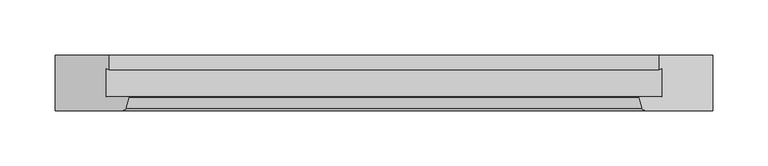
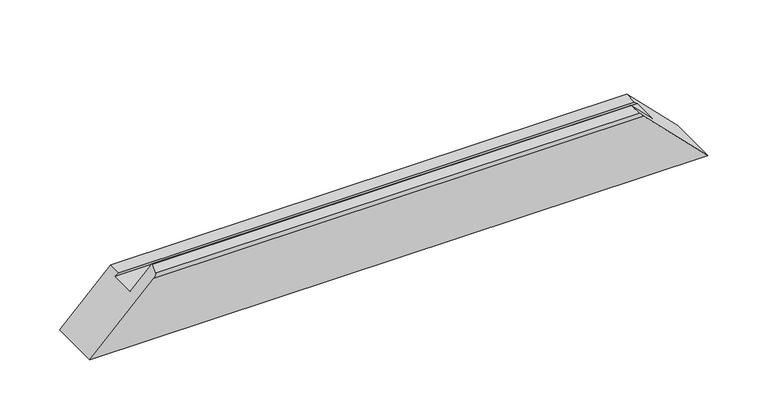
"""IFC4 building model written with IfcOpenShell, lengths in millimetres: proxy geometry, Weiku - Montante - Caixilho 02.2.01.005 : Weiku - Montante - Caixilho 02.2.01.005."""

import ifcopenshell
import ifcopenshell.guid

model = None  # the IFC model being written
_history = None  # IfcOwnerHistory: only IFC2X3 demands one
_inside = {}  # id of a spatial element -> (the spatial element, [elements in it])
_under = {}  # id of a project, library or spatial element -> (it, [spatial elements below it])
_declared = {}  # id of a project -> (the project, [libraries it declares])
_typed = {}  # id of a type object -> (the type object, [elements of that type])
_made_of = {}  # id of a material, layer set ... -> (it, [elements and type objects made of it])


def new_model(schema):
    """Start an empty IFC model of exactly this schema.

    Asked for "IFC4X3", IfcOpenShell would pick the latest addendum, in which some entities
    have other attributes; the version numbers below select the first issue.
    IFC2X3 requires an IfcOwnerHistory on every rooted entity: one is made here for all.
    """
    global model, _history
    if schema == "IFC4X3":
        model = ifcopenshell.file(schema_version=(4, 3, 0, 0))
    else:
        model = ifcopenshell.file(schema=schema)
    _inside.clear()
    _under.clear()
    _declared.clear()
    _typed.clear()
    _made_of.clear()
    _history = None
    if model.schema == "IFC2X3":
        org = make("IfcOrganization", Name="unknown")
        user = make(
            "IfcPersonAndOrganization",
            ThePerson=make("IfcPerson", FamilyName="unknown"),
            TheOrganization=org,
        )
        app = make(
            "IfcApplication",
            ApplicationDeveloper=org,
            Version="unknown",
            ApplicationFullName="unknown",
            ApplicationIdentifier="unknown",
        )
        _history = make(
            "IfcOwnerHistory",
            OwningUser=user,
            OwningApplication=app,
            ChangeAction="ADDED",
            CreationDate=0,
        )
    return model


def make(cls, **values):
    """One entity of the class cls with the attributes given. An attribute that is None is left unset."""
    return model.create_entity(
        cls, **{name: value for name, value in values.items() if value is not None}
    )


def rooted(cls, **values):
    """An entity with a GlobalId (a new one), such as an element, a storey or a relation."""
    return make(cls, GlobalId=ifcopenshell.guid.new(), OwnerHistory=_history, **values)


def si_unit(unit_type, name, prefix=None):
    """IfcSIUnit, for example si_unit("LENGTHUNIT", "METRE", prefix="MILLI")."""
    return make("IfcSIUnit", UnitType=unit_type, Prefix=prefix, Name=name)


def assignment(units):
    """IfcUnitAssignment: the units of a project."""
    return None if units is None else make("IfcUnitAssignment", Units=units)


def point(xyz):
    """IfcCartesianPoint."""
    return None if xyz is None else make("IfcCartesianPoint", Coordinates=xyz)


def direction(xyz):
    """IfcDirection."""
    return None if xyz is None else make("IfcDirection", DirectionRatios=xyz)


def frame(location, z_axis=None, x_axis=None):
    """IfcAxis2Placement3D, a coordinate frame: its origin and axes. An axis left out is left unset."""
    return make(
        "IfcAxis2Placement3D",
        Location=point(location),
        Axis=direction(z_axis),
        RefDirection=direction(x_axis),
    )


def origin():
    """The frame at (0, 0, 0) with its axes left unset."""
    return frame((0.0, 0.0, 0.0))


def place(relative_to, where):
    """IfcLocalPlacement: puts the frame where relative to a parent placement (None: the world)."""
    return make(
        "IfcLocalPlacement", PlacementRelTo=relative_to, RelativePlacement=where
    )


def context(
    kind, dimensions, precision=None, world=None, true_north=None, identifier=None
):
    """IfcGeometricRepresentationContext, for example the 3D "Model" context."""
    return make(
        "IfcGeometricRepresentationContext",
        ContextIdentifier=identifier,
        ContextType=kind,
        CoordinateSpaceDimension=dimensions,
        Precision=precision,
        WorldCoordinateSystem=world,
        TrueNorth=true_north,
    )


def project(units=None, contexts=None):
    """IfcProject with its units and contexts."""
    return rooted(
        "IfcProject",
        Name="project",
        RepresentationContexts=contexts,
        UnitsInContext=assignment(units),
    )


def spatial(cls, under=None, at=None, **own):
    """A site, building, storey or space (cls), placed at a placement, below another one or the project."""
    s = rooted(cls, ObjectPlacement=at, **own)
    if under is not None:
        _under.setdefault(under.id(), (under, []))[1].append(s)
    return s


def ellipse_curve(where, semi_axis1, semi_axis2):
    """IfcEllipse in the frame where."""
    return make(
        "IfcEllipse", Position=where, SemiAxis1=semi_axis1, SemiAxis2=semi_axis2
    )


def shape(context_of_items, identifier, shape_type, items):
    """IfcShapeRepresentation: the items that make up one representation, for example the "Body"."""
    return make(
        "IfcShapeRepresentation",
        ContextOfItems=context_of_items,
        RepresentationIdentifier=identifier,
        RepresentationType=shape_type,
        Items=items,
    )


def source(mapping_origin, context_of_items, identifier, shape_type, items):
    """IfcRepresentationMap: a shape defined once, which mapped items show again and again."""
    return make(
        "IfcRepresentationMap",
        MappingOrigin=mapping_origin,
        MappedRepresentation=shape(context_of_items, identifier, shape_type, items),
    )


def transform(
    local_origin,
    x_axis=None,
    y_axis=None,
    z_axis=None,
    scale=None,
    scale2=None,
    scale3=None,
    uniform=True,
):
    """IfcCartesianTransformationOperator3D, or its non-uniform kind. x_axis, y_axis, z_axis: its Axis1, 2, 3."""
    if uniform:
        return make(
            "IfcCartesianTransformationOperator3D",
            Axis1=direction(x_axis),
            Axis2=direction(y_axis),
            LocalOrigin=point(local_origin),
            Scale=scale,
            Axis3=direction(z_axis),
        )
    return make(
        "IfcCartesianTransformationOperator3DnonUniform",
        Axis1=direction(x_axis),
        Axis2=direction(y_axis),
        LocalOrigin=point(local_origin),
        Scale=scale,
        Axis3=direction(z_axis),
        Scale2=scale2,
        Scale3=scale3,
    )


def mapped(mapping_source, mapping_target):
    """IfcMappedItem: shows the shape of a source again, moved by a transform."""
    return make(
        "IfcMappedItem", MappingSource=mapping_source, MappingTarget=mapping_target
    )


def made_of(thing, what):
    """Note that an element or type object is made of a material, layer set ...; save() writes the relation."""
    if what is not None:
        _made_of.setdefault(what.id(), (what, []))[1].append(thing)
    return thing


def element(
    cls,
    number,
    at=None,
    inside=None,
    cuts=None,
    type_object=None,
    material=None,
    context=None,
    identifier="Body",
    shape_type=None,
    held_by="IfcProductDefinitionShape",
    body=None,
    shapes=None,
    **own,
):
    """One element of the class cls, such as IfcWall. Its Tag is "e" and its number.

    at: its placement. inside: the storey or other place that contains it. cuts: it is an
    opening in that element (IfcRelVoidsElement). A single representation is given by context,
    identifier, shape_type and body (its items); several are given by shapes. held_by: the class
    of the entity that holds the representations. save() writes the other relations.
    """
    e = rooted(cls, Tag="e%d" % number, ObjectPlacement=at, **own)
    if body is not None:
        shapes = [shape(context, identifier, shape_type, body)]
    if shapes is not None:
        e.Representation = make(held_by, Representations=shapes)
    if inside is not None:
        _inside.setdefault(inside.id(), (inside, []))[1].append(e)
    if cuts is not None:
        rooted(
            "IfcRelVoidsElement", RelatingBuildingElement=cuts, RelatedOpeningElement=e
        )
    if type_object is not None:
        _typed.setdefault(type_object.id(), (type_object, []))[1].append(e)
    return made_of(e, material)


def aggregate(whole, parts):
    """IfcRelAggregates: a whole, such as a stair, and the parts it consists of."""
    return rooted("IfcRelAggregates", RelatingObject=whole, RelatedObjects=parts)


def save(model, path):
    """Write the relations noted so far, then the file.

    IfcRelAggregates (storeys below a building ...), IfcRelContainedInSpatialStructure (elements
    in a storey), IfcRelDefinesByType, IfcRelAssociatesMaterial and IfcRelDeclares: one each for
    every whole, place, type object, material and project.
    """
    for whole, parts in _under.values():
        aggregate(whole, parts)
    for where, things in _inside.values():
        rooted(
            "IfcRelContainedInSpatialStructure",
            RelatedElements=things,
            RelatingStructure=where,
        )
    for kind, things in _typed.values():
        rooted("IfcRelDefinesByType", RelatedObjects=things, RelatingType=kind)
    for what, things in _made_of.values():
        rooted("IfcRelAssociatesMaterial", RelatedObjects=things, RelatingMaterial=what)
    for by, libraries in _declared.values():
        rooted("IfcRelDeclares", RelatingContext=by, RelatedDefinitions=libraries)
    model.write(path)


def plane_surface(at):
    """IfcPlane: the flat surface through the origin of the frame at, square to its z axis."""
    return make("IfcPlane", Position=at)


def cylinder_surface(at, radius):
    """IfcCylindricalSurface: all points at the distance radius from the z axis of the frame at."""
    return make("IfcCylindricalSurface", Position=at, Radius=radius)


def advanced_brep(points, edges, surfaces, faces):
    """IfcAdvancedBrep: a solid bounded by faces that lie on surfaces and meet in shared edges.

    An edge is (start, end): straight between two places in points (the first is 0);
    or (start, end, curve); or (start, end, curve, False) where it runs against its curve.
    A face is (place in surfaces, loops), or (place, loops, False) where it looks against
    its surface's normal. A loop lists edges by number (the first is 1), with a minus sign
    where the edge is run from its end to its start. The first loop is the outer one.
    """
    corners = [point(p) for p in points]
    vertices = [make("IfcVertexPoint", VertexGeometry=c) for c in corners]
    made = []
    for start, end, *more in edges:
        made.append(
            make(
                "IfcEdgeCurve",
                EdgeStart=vertices[start],
                EdgeEnd=vertices[end],
                EdgeGeometry=more[0] if more else make("IfcPolyline", Points=[corners[start], corners[end]]),
                SameSense=more[1] if len(more) > 1 else True,
            )
        )
    hull = []
    for where, loops, *sense in faces:
        bounds = []
        for j, loop in enumerate(loops):
            ring = [make("IfcOrientedEdge", EdgeElement=made[abs(k) - 1], Orientation=k > 0) for k in loop]
            bounds.append(
                make(
                    "IfcFaceOuterBound" if j == 0 else "IfcFaceBound",
                    Bound=make("IfcEdgeLoop", EdgeList=ring),
                    Orientation=True,
                )
            )
        hull.append(make("IfcAdvancedFace", Bounds=bounds, FaceSurface=surfaces[where], SameSense=sense[0] if sense else True))
    return make("IfcAdvancedBrep", Outer=make("IfcClosedShell", CfsFaces=hull))


def generic_models_2ecda529(model_context):
    return source(origin(), model_context, "Body", "AdvancedBrep", [
        advanced_brep(
        [(-251.5, 12.5, 46.0), (-231.3909676, 12.5, 66.1090324), (231.3909676, 12.5, 66.1090324), (251.5, 12.5, 46.0), (-251.5, 37.8314286, 46.0), (251.5, 37.8314286, 46.0), (-248.5, 37.027581, 49.0), (248.5, 37.027581, 49.0), (-248.5, 50.0, 49.0), (248.5, 50.0, 49.0), (297.5, 50.0, 0.0), (-297.5, 50.0, 0.0), (297.5, 0.0, 0.0), (-297.5, 0.0, 0.0), (235.9997332, 0.0, 61.5002668), (-235.9997332, 0.0, 61.5002668), (-230.618227, 11.4929448, 66.881773), (-233.1019557, 2.2235429, 64.3980443), (233.1019557, 2.2235429, 64.3980443), (230.618227, 11.4929448, 66.881773)],
        [
            (0, 1),
            (1, 2),
            (2, 3),
            (3, 0),
            (4, 0),
            (3, 5),
            (5, 4),
            (6, 4),
            (5, 7),
            (7, 6),
            (8, 6),
            (7, 9),
            (9, 8),
            (10, 11),
            (11, 8),
            (9, 10),
            (10, 12),
            (12, 13),
            (13, 11),
            (12, 14),
            (14, 15),
            (15, 13),
            (16, 17),
            (17, 18),
            (18, 19),
            (19, 16),
            (15, 17, ellipse_curve(frame((-235.9997332, 3.0, 61.5002668), z_axis=(-0.707106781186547, 0.0, 0.707106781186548), x_axis=(-0.7071067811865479, 0.0, -0.707106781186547)), 4.2426407, 3.0)),
            (16, 1, ellipse_curve(frame((-231.3909676, 11.7, 66.1090324), z_axis=(-0.707106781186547, 0.0, 0.707106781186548), x_axis=(-0.7071067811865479, 0.0, -0.707106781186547)), 1.1313708, 0.8)),
            (2, 19, ellipse_curve(frame((231.3909676, 11.7, 66.1090324), z_axis=(0.707106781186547, 0.0, 0.7071067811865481), x_axis=(-0.7071067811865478, 0.0, 0.707106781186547)), 1.1313708, 0.8)),
            (18, 14, ellipse_curve(frame((235.9997332, 3.0, 61.5002668), z_axis=(0.707106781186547, 0.0, 0.7071067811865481), x_axis=(-0.7071067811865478, 0.0, 0.707106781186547)), 4.2426407, 3.0)),
        ],
        [
            plane_surface(frame((-297.5, 12.5, 66.1090324), z_axis=(0.0, 1.0, 0.0), x_axis=(1.0, 0.0, 0.0))),
            plane_surface(frame((-297.5, 12.5, 46.0), z_axis=(0.0, 0.0, 1.0), x_axis=(1.0, 0.0, 0.0))),
            plane_surface(frame((-297.5, 37.8314286, 46.0), z_axis=(0.0, -0.9659258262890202, -0.2588190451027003), x_axis=(1.0, 0.0, 0.0))),
            plane_surface(frame((-297.5, 37.027581, 49.0), z_axis=(0.0, 0.0, 1.0), x_axis=(1.0, 0.0, 0.0))),
            plane_surface(frame((-297.5, 50.0, 49.0), z_axis=(0.0, 1.0, 0.0), x_axis=(1.0, 0.0, 0.0))),
            plane_surface(frame((-297.5, 50.0, 0.0), z_axis=(0.0, 0.0, -1.0), x_axis=(1.0, 0.0, 0.0))),
            plane_surface(frame((-297.5, 0.0, 0.0), z_axis=(0.0, -1.0, 0.0), x_axis=(1.0, 0.0, 0.0))),
            plane_surface(frame((-297.5, 2.2235429, 64.3980443), z_axis=(0.0, -0.2588190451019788, 0.9659258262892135), x_axis=(1.0, 0.0, 0.0))),
            plane_surface(frame((-367.5, -15.0, -70.0), z_axis=(-0.707106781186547, 0.0, 0.707106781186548), x_axis=(0.0, 1.0, 0.0))),
            plane_surface(frame((227.5, -15.0, 70.0), z_axis=(0.707106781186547, 0.0, 0.7071067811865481), x_axis=(0.0, 1.0, 0.0))),
            cylinder_surface(frame((-297.5, 11.7, 66.1090324), z_axis=(-1.0, 0.0, 0.0), x_axis=(0.0, 1.0, 0.0)), 0.8),
            cylinder_surface(frame((-297.5, 3.0, 61.5002668), z_axis=(-1.0, 0.0, 0.0), x_axis=(0.0, 1.0, 0.0)), 3.0),
        ],
        [
            (0, [[1, 2, 3, 4]]),
            (1, [[5, -4, 6, 7]]),
            (2, [[8, -7, 9, 10]]),
            (3, [[11, -10, 12, 13]]),
            (4, [[14, 15, -13, 16]]),
            (5, [[-14, 17, 18, 19]]),
            (6, [[-18, 20, 21, 22]]),
            (7, [[23, 24, 25, 26]]),
            (8, [[-1, -5, -8, -11, -15, -19, -22, 27, -23, 28]]),
            (9, [[-3, 29, -25, 30, -20, -17, -16, -12, -9, -6]]),
            (10, [[-28, -26, -29, -2]]),
            (11, [[-27, -21, -30, -24]]),
        ],
    ),
    ])


if __name__ == "__main__":
    model = new_model("IFC4")
    model_context = context("Model", 3, world=origin())
    ifc_project = project(units=[si_unit("LENGTHUNIT", "METRE", prefix="MILLI")], contexts=[model_context])
    site = spatial("IfcSite", under=ifc_project)
    building = spatial("IfcBuilding", under=site)
    placement = place(None, origin())
    generic_models_shape = generic_models_2ecda529(model_context)
    element("IfcBuildingElementProxy", 1, Name="Weiku - Montante - Caixilho 02.2.01.005 : Weiku - Montante - Caixilho 02.2.01.005", ObjectType="Weiku - Montante - Caixilho 02.2.01.005 : Weiku - Montante - Caixilho 02.2.01.005", at=placement, inside=building, context=model_context, shape_type="MappedRepresentation", body=[
        mapped(generic_models_shape, transform((0.0, 0.0, 0.0), x_axis=(1.0, 0.0, 0.0), y_axis=(0.0, 1.0, 0.0), z_axis=(0.0, 0.0, 1.0))),
    ])
    save(model, "model.ifc")
